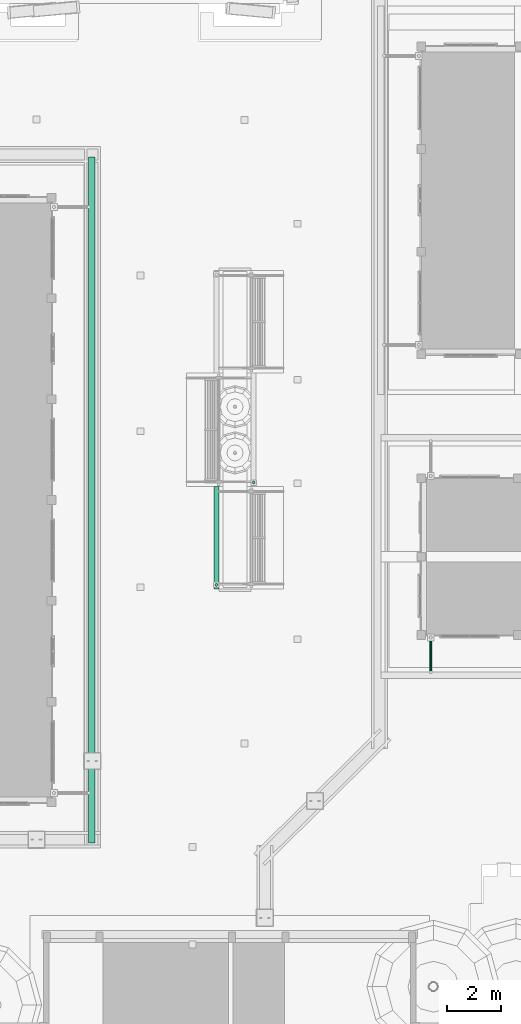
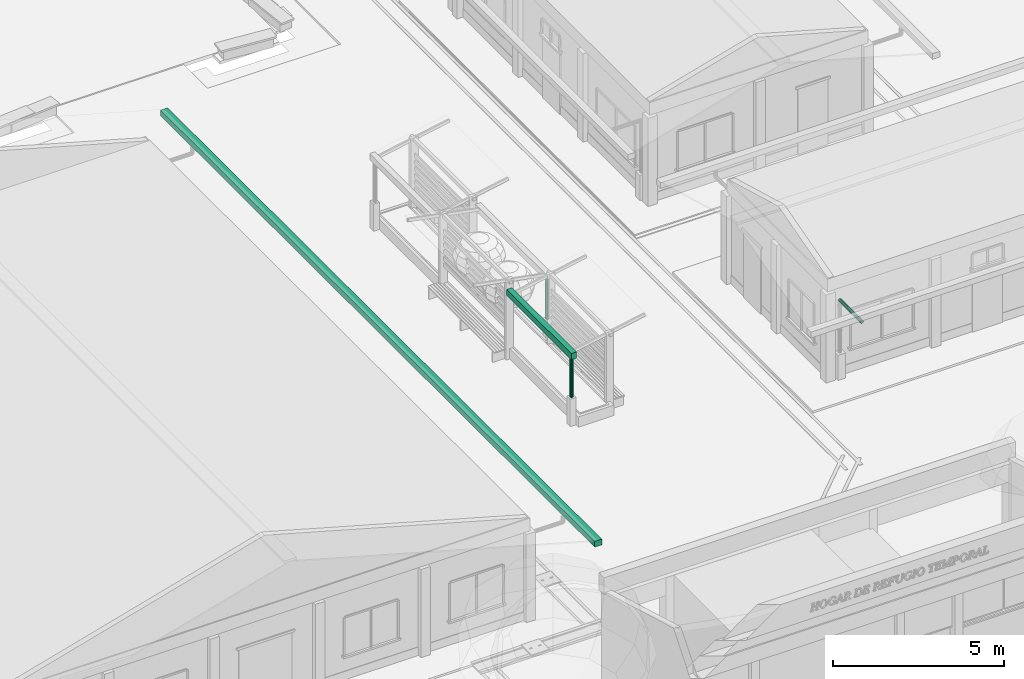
# One storey, part 98 of 177: 5 pipe segments.
"""IFC4 building model written with IfcOpenShell, lengths in metres."""

from ifc_helpers import new_model, si_unit, origin, origin_with_axes, place, context, subcontext, project, spatial, triangles, element, save


model = new_model("IFC4")

# Units and contexts
model_context = context("Model", 3, precision=1e-05, world=origin_with_axes())
body_context = subcontext(model_context, "Body", "Model", "MODEL_VIEW")
ifc_project = project(units=[si_unit("LENGTHUNIT", "METRE"), si_unit("AREAUNIT", "SQUARE_METRE"), si_unit("VOLUMEUNIT", "CUBIC_METRE"), si_unit("PLANEANGLEUNIT", "RADIAN")], contexts=[model_context])

# Site, building, storey
site_placement = place(None, origin_with_axes())
site = spatial("IfcSite", under=ifc_project, at=site_placement, Name="Predio Los Mangos - Morales, San Martín", CompositionType="ELEMENT")
building_placement = place(site_placement, origin())
building = spatial("IfcBuilding", under=site, at=building_placement, Name="Hogar de Refugio Temporal", CompositionType="ELEMENT")
storey_placement = place(building_placement, origin())
storey = spatial("IfcBuildingStorey", under=building, at=storey_placement, Name="NIVEL 1 (NPT +0.00)", CompositionType="ELEMENT", Elevation=0.0)

# Pipe segments
pipe_segment_1_placement = place(storey_placement, origin())
element("IfcPipeSegment", 1, at=pipe_segment_1_placement, inside=storey, Name="E-01_canaleta", ObjectType="Canaleta", PredefinedType="GUTTER", context=body_context, shape_type="Tessellation", body=[
    triangles([(32.98, 24.8, 3.13), (33.22, 24.8, 3.13), (33.22, 50.2, 3.13), (32.98, 50.2, 3.13), (32.98, 24.8, 3.33), (33.22, 24.8, 3.33), (33.22, 50.2, 3.33), (32.98, 50.2, 3.33)], [[1, 4, 3], [1, 3, 2], [5, 6, 7], [5, 7, 8], [1, 2, 6], [1, 6, 5], [2, 3, 7], [2, 7, 6], [3, 4, 8], [3, 8, 7], [4, 1, 5], [4, 5, 8]]),
])
pipe_segment_2_placement = place(storey_placement, origin())
element("IfcPipeSegment", 2, at=pipe_segment_2_placement, inside=storey, Name="montante_desvio", ObjectType="Montante PVC 4\"", PredefinedType="RIGIDSEGMENT", context=body_context, shape_type="Tessellation", body=[
    triangles([(45.65, 31.12, 2.965), (45.65, 32.41, 2.965), (45.6225, 31.12, 2.9576), (45.6225, 32.41, 2.9576), (45.6024, 31.12, 2.9375), (45.6024, 32.41, 2.9375), (45.595, 31.12, 2.91), (45.595, 32.41, 2.91), (45.6024, 31.12, 2.8825), (45.6024, 32.41, 2.8825), (45.6225, 31.12, 2.8624), (45.6225, 32.41, 2.8624), (45.65, 31.12, 2.855), (45.65, 32.41, 2.855), (45.6775, 31.12, 2.8624), (45.6775, 32.41, 2.8624), (45.6976, 31.12, 2.8825), (45.6976, 32.41, 2.8825), (45.705, 31.12, 2.91), (45.705, 32.41, 2.91), (45.6976, 31.12, 2.9375), (45.6976, 32.41, 2.9375), (45.6775, 31.12, 2.9576), (45.6775, 32.41, 2.9576)], [[1, 2, 4], [1, 4, 3], [3, 4, 6], [3, 6, 5], [5, 6, 8], [5, 8, 7], [7, 8, 10], [7, 10, 9], [9, 10, 12], [9, 12, 11], [11, 12, 14], [11, 14, 13], [13, 14, 16], [13, 16, 15], [15, 16, 18], [15, 18, 17], [17, 18, 20], [17, 20, 19], [19, 20, 22], [19, 22, 21], [6, 4, 2], [2, 24, 22], [22, 20, 18], [18, 16, 14], [14, 12, 10], [10, 8, 6], [6, 2, 22], [22, 18, 14], [14, 10, 6], [22, 14, 6], [21, 22, 24], [21, 24, 23], [23, 24, 2], [23, 2, 1], [23, 1, 3], [3, 5, 7], [7, 9, 11], [11, 13, 15], [15, 17, 19], [19, 21, 23], [23, 3, 7], [7, 11, 15], [15, 19, 23], [7, 15, 23]]),
])
pipe_segment_3_placement = place(storey_placement, origin())
element("IfcPipeSegment", 3, at=pipe_segment_3_placement, inside=storey, Name="oc01_canaleta", ObjectType="Canaleta", PredefinedType="GUTTER", context=body_context, shape_type="Tessellation", body=[
    triangles([(37.8, 34.205, 2.49), (37.8, 37.995, 2.49), (37.62, 37.995, 2.49), (37.62, 34.205, 2.49), (37.8, 34.205, 2.71), (37.8, 37.995, 2.71), (37.62, 37.995, 2.71), (37.62, 34.205, 2.71)], [[1, 4, 3], [1, 3, 2], [5, 6, 7], [5, 7, 8], [1, 2, 6], [1, 6, 5], [2, 3, 7], [2, 7, 6], [3, 4, 8], [3, 8, 7], [4, 1, 5], [4, 5, 8]]),
])
pipe_segment_4_placement = place(storey_placement, origin())
element("IfcPipeSegment", 4, at=pipe_segment_4_placement, inside=storey, Name="oc01_bajada", ObjectType="Montante PVC 4\"", PredefinedType="RIGIDSEGMENT", context=body_context, shape_type="Tessellation", body=[
    triangles([(37.71, 34.41, 2.49), (37.71, 34.41, 1.05), (37.6825, 34.4026, 2.49), (37.6825, 34.4026, 1.05), (37.6624, 34.3825, 2.49), (37.6624, 34.3825, 1.05), (37.655, 34.355, 2.49), (37.655, 34.355, 1.05), (37.6624, 34.3275, 2.49), (37.6624, 34.3275, 1.05), (37.6825, 34.3074, 2.49), (37.6825, 34.3074, 1.05), (37.71, 34.3, 2.49), (37.71, 34.3, 1.05), (37.7375, 34.3074, 2.49), (37.7375, 34.3074, 1.05), (37.7576, 34.3275, 2.49), (37.7576, 34.3275, 1.05), (37.765, 34.355, 2.49), (37.765, 34.355, 1.05), (37.7576, 34.3825, 2.49), (37.7576, 34.3825, 1.05), (37.7375, 34.4026, 2.49), (37.7375, 34.4026, 1.05)], [[1, 2, 4], [1, 4, 3], [3, 4, 6], [3, 6, 5], [5, 6, 8], [5, 8, 7], [7, 8, 10], [7, 10, 9], [9, 10, 12], [9, 12, 11], [11, 12, 14], [11, 14, 13], [13, 14, 16], [13, 16, 15], [15, 16, 18], [15, 18, 17], [17, 18, 20], [17, 20, 19], [19, 20, 22], [19, 22, 21], [6, 4, 2], [2, 24, 22], [22, 20, 18], [18, 16, 14], [14, 12, 10], [10, 8, 6], [6, 2, 22], [22, 18, 14], [14, 10, 6], [22, 14, 6], [21, 22, 24], [21, 24, 23], [23, 24, 2], [23, 2, 1], [23, 1, 3], [3, 5, 7], [7, 9, 11], [11, 13, 15], [15, 17, 19], [19, 21, 23], [23, 3, 7], [7, 11, 15], [15, 19, 23], [7, 15, 23]]),
])
pipe_segment_5_placement = place(storey_placement, origin())
element("IfcPipeSegment", 5, at=pipe_segment_5_placement, inside=storey, Name="oc01_bajada", ObjectType="Montante PVC 4\"", PredefinedType="RIGIDSEGMENT", context=body_context, shape_type="Tessellation", body=[
    triangles([(39.09, 38.2, 2.49), (39.09, 38.2, 1.05), (39.0625, 38.1926, 2.49), (39.0625, 38.1926, 1.05), (39.0424, 38.1725, 2.49), (39.0424, 38.1725, 1.05), (39.035, 38.145, 2.49), (39.035, 38.145, 1.05), (39.0424, 38.1175, 2.49), (39.0424, 38.1175, 1.05), (39.0625, 38.0974, 2.49), (39.0625, 38.0974, 1.05), (39.09, 38.09, 2.49), (39.09, 38.09, 1.05), (39.1175, 38.0974, 2.49), (39.1175, 38.0974, 1.05), (39.1376, 38.1175, 2.49), (39.1376, 38.1175, 1.05), (39.145, 38.145, 2.49), (39.145, 38.145, 1.05), (39.1376, 38.1725, 2.49), (39.1376, 38.1725, 1.05), (39.1175, 38.1926, 2.49), (39.1175, 38.1926, 1.05)], [[1, 2, 4], [1, 4, 3], [3, 4, 6], [3, 6, 5], [5, 6, 8], [5, 8, 7], [7, 8, 10], [7, 10, 9], [9, 10, 12], [9, 12, 11], [11, 12, 14], [11, 14, 13], [13, 14, 16], [13, 16, 15], [15, 16, 18], [15, 18, 17], [17, 18, 20], [17, 20, 19], [19, 20, 22], [19, 22, 21], [6, 4, 2], [2, 24, 22], [22, 20, 18], [18, 16, 14], [14, 12, 10], [10, 8, 6], [6, 2, 22], [22, 18, 14], [14, 10, 6], [22, 14, 6], [21, 22, 24], [21, 24, 23], [23, 24, 2], [23, 2, 1], [23, 1, 3], [3, 5, 7], [7, 9, 11], [11, 13, 15], [15, 17, 19], [19, 21, 23], [23, 3, 7], [7, 11, 15], [15, 19, 23], [7, 15, 23]]),
])

save(model, "model.ifc")
